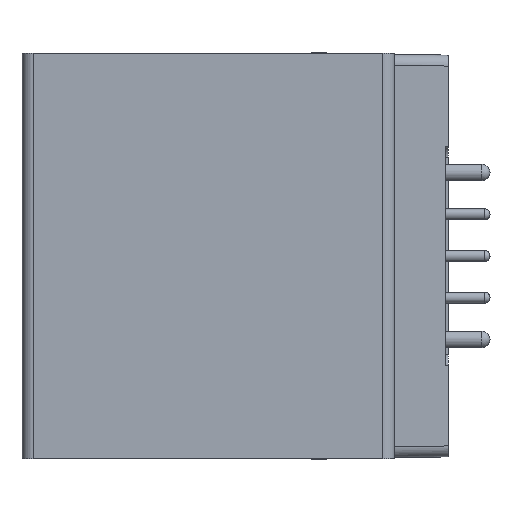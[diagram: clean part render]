
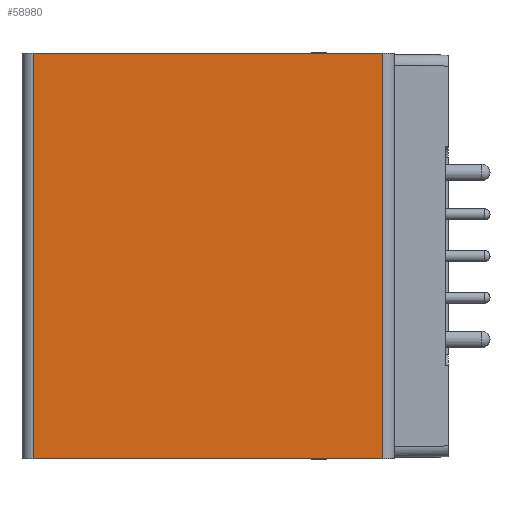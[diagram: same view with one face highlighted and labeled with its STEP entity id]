
A CAD part, left-side view. The second image highlights one B-rep face of the part: STEP entity #58980.
In plain terms, the highlighted planar face has unit normal (-1, 0, 0).
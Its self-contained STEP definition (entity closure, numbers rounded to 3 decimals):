
#1034 = CARTESIAN_POINT ( 'NONE',  ( -31.6, -7.55, 18.5 ) ) ;
#1335 = DIRECTION ( 'NONE',  ( 0., 0., -1. ) ) ;
#2015 = ORIENTED_EDGE ( 'NONE', *, *, #52415, .F. ) ;
#2372 = DIRECTION ( 'NONE',  ( 0., -1., 0. ) ) ;
#5043 = VECTOR ( 'NONE', #1335, 1000. ) ;
#5969 = CARTESIAN_POINT ( 'NONE',  ( -31.6, 24.35, -18.5 ) ) ;
#7828 = EDGE_CURVE ( 'NONE', #30514, #23501, #28647, .T. ) ;
#8133 = CARTESIAN_POINT ( 'NONE',  ( -31.6, 24.35, 18.5 ) ) ;
#11431 = VECTOR ( 'NONE', #2372, 1000. ) ;
#11455 = LINE ( 'NONE', #26931, #5043 ) ;
#11480 = VECTOR ( 'NONE', #56609, 1000. ) ;
#17706 = VECTOR ( 'NONE', #36568, 1000. ) ;
#17927 = DIRECTION ( 'NONE',  ( 1., 0., 0. ) ) ;
#18987 = VERTEX_POINT ( 'NONE', #23807 ) ;
#21265 = CARTESIAN_POINT ( 'NONE',  ( -31.6, 24.35, 18.5 ) ) ;
#22644 = PLANE ( 'NONE',  #54232 ) ;
#23501 = VERTEX_POINT ( 'NONE', #1034 ) ;
#23807 = CARTESIAN_POINT ( 'NONE',  ( -31.6, -7.55, -18.5 ) ) ;
#26022 = EDGE_CURVE ( 'NONE', #55836, #18987, #32540, .T. ) ;
#26931 = CARTESIAN_POINT ( 'NONE',  ( -31.6, 24.35, 18.5 ) ) ;
#27248 = EDGE_CURVE ( 'NONE', #30514, #55836, #11455, .T. ) ;
#27348 = DIRECTION ( 'NONE',  ( 0., 0., -1. ) ) ;
#28647 = LINE ( 'NONE', #8133, #11431 ) ;
#29327 = EDGE_LOOP ( 'NONE', ( #65086, #2015, #40748, #55051 ) ) ;
#30514 = VERTEX_POINT ( 'NONE', #21265 ) ;
#32540 = LINE ( 'NONE', #47537, #17706 ) ;
#33404 = CARTESIAN_POINT ( 'NONE',  ( -31.6, 24.35, 18.5 ) ) ;
#36255 = CARTESIAN_POINT ( 'NONE',  ( -31.6, -7.55, 18.5 ) ) ;
#36568 = DIRECTION ( 'NONE',  ( 0., -1., 0. ) ) ;
#40748 = ORIENTED_EDGE ( 'NONE', *, *, #7828, .F. ) ;
#47537 = CARTESIAN_POINT ( 'NONE',  ( -31.6, 24.35, -18.5 ) ) ;
#48388 = FACE_OUTER_BOUND ( 'NONE', #29327, .T. ) ;
#52415 = EDGE_CURVE ( 'NONE', #23501, #18987, #52882, .T. ) ;
#52882 = LINE ( 'NONE', #36255, #11480 ) ;
#54232 = AXIS2_PLACEMENT_3D ( 'NONE', #33404, #17927, #27348 ) ;
#55051 = ORIENTED_EDGE ( 'NONE', *, *, #27248, .T. ) ;
#55836 = VERTEX_POINT ( 'NONE', #5969 ) ;
#56609 = DIRECTION ( 'NONE',  ( 0., 0., -1. ) ) ;
#58980 = ADVANCED_FACE ( 'NONE', ( #48388 ), #22644, .F. ) ;
#65086 = ORIENTED_EDGE ( 'NONE', *, *, #26022, .T. ) ;
